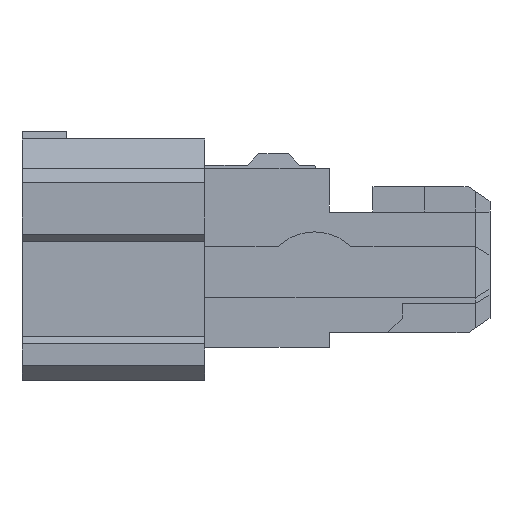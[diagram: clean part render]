
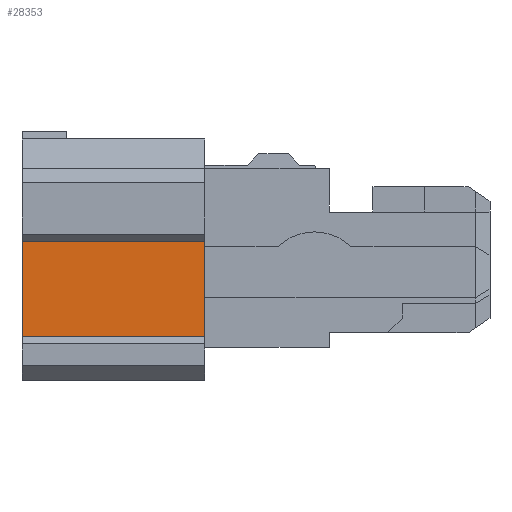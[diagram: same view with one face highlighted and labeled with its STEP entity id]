
A CAD part, front view. The second image highlights one B-rep face of the part: STEP entity #28353.
In plain terms, the highlighted planar face has unit normal (0, -1, 0).
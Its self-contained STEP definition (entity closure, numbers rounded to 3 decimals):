
#4650=DIRECTION('',(0.,0.,-1.));
#4651=VECTOR('',#4650,0.65);
#4652=CARTESIAN_POINT('',(1.15,-11.3,0.125));
#4653=LINE('',#4652,#4651);
#8500=DIRECTION('',(-1.,0.,0.));
#8501=VECTOR('',#8500,1.25);
#8502=CARTESIAN_POINT('',(1.15,-11.3,-0.525));
#8503=LINE('',#8502,#8501);
#8504=DIRECTION('',(0.,0.,-1.));
#8505=VECTOR('',#8504,0.65);
#8506=CARTESIAN_POINT('',(-0.1,-11.3,0.125));
#8507=LINE('',#8506,#8505);
#8508=DIRECTION('',(-1.,0.,0.));
#8509=VECTOR('',#8508,1.25);
#8510=CARTESIAN_POINT('',(1.15,-11.3,0.125));
#8511=LINE('',#8510,#8509);
#12696=CARTESIAN_POINT('',(-0.1,-11.3,0.125));
#12697=VERTEX_POINT('',#12696);
#12698=CARTESIAN_POINT('',(-0.1,-11.3,-0.525));
#12699=VERTEX_POINT('',#12698);
#13414=CARTESIAN_POINT('',(1.15,-11.3,-0.525));
#13415=VERTEX_POINT('',#13414);
#13416=CARTESIAN_POINT('',(1.15,-11.3,0.125));
#13417=VERTEX_POINT('',#13416);
#28341=CARTESIAN_POINT('',(-0.312,-11.3,0.125));
#28342=DIRECTION('',(0.,1.,0.));
#28343=DIRECTION('',(0.,0.,-1.));
#28344=AXIS2_PLACEMENT_3D('',#28341,#28342,#28343);
#28345=PLANE('',#28344);
#28346=ORIENTED_EDGE('',*,*,#28192,.F.);
#28348=ORIENTED_EDGE('',*,*,#28347,.F.);
#28349=ORIENTED_EDGE('',*,*,#23578,.T.);
#28350=ORIENTED_EDGE('',*,*,#28335,.T.);
#28351=EDGE_LOOP('',(#28346,#28348,#28349,#28350));
#28352=FACE_OUTER_BOUND('',#28351,.F.);
#28353=ADVANCED_FACE('',(#28352),#28345,.F.);
#23578=EDGE_CURVE('',#13417,#13415,#4653,.T.);
#28192=EDGE_CURVE('',#12697,#12699,#8507,.T.);
#28335=EDGE_CURVE('',#13415,#12699,#8503,.T.);
#28347=EDGE_CURVE('',#13417,#12697,#8511,.T.);
